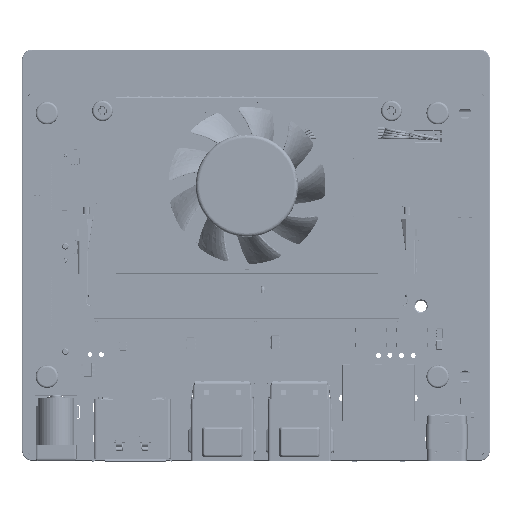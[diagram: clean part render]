
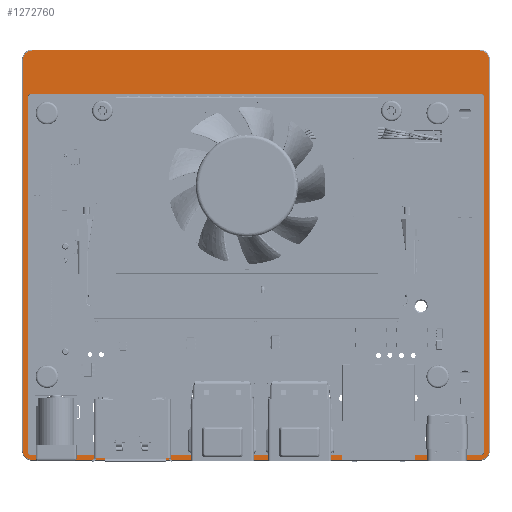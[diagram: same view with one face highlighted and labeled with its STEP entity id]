
A CAD part, top view. The second image highlights one B-rep face of the part: STEP entity #1272760.
In plain terms, the highlighted planar face has unit normal (0, 0, 1).
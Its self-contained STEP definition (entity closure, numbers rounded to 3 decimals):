
#1240463=CARTESIAN_POINT('',(84.2,39.15,-6.66));
#1240464=DIRECTION('',(0.,0.,1.));
#1240465=DIRECTION('',(1.,0.,0.));
#1240466=AXIS2_PLACEMENT_3D('',#1240463,#1240464,#1240465);
#1240471=DIRECTION('',(-1.,0.,0.));
#1240472=VECTOR('',#1240471,98.8);
#1240473=CARTESIAN_POINT('',(84.2,40.006,-6.66));
#1240474=LINE('',#1240473,#1240472);
#1240478=CARTESIAN_POINT('',(-14.6,39.15,-6.66));
#1240479=DIRECTION('',(0.,0.,1.));
#1240480=DIRECTION('',(0.,1.,0.));
#1240481=AXIS2_PLACEMENT_3D('',#1240478,#1240479,#1240480);
#1240486=DIRECTION('',(0.,-1.,0.));
#1240487=VECTOR('',#1240486,77.8);
#1240488=CARTESIAN_POINT('',(-15.456,39.15,-6.66));
#1240489=LINE('',#1240488,#1240487);
#1240493=CARTESIAN_POINT('',(-14.6,-38.65,-6.66));
#1240494=DIRECTION('',(0.,0.,1.));
#1240495=DIRECTION('',(-1.,0.,0.));
#1240496=AXIS2_PLACEMENT_3D('',#1240493,#1240494,#1240495);
#1240501=DIRECTION('',(1.,0.,0.));
#1240502=VECTOR('',#1240501,98.8);
#1240503=CARTESIAN_POINT('',(-14.6,-39.506,-6.66));
#1240504=LINE('',#1240503,#1240502);
#1240508=CARTESIAN_POINT('',(84.2,-38.65,-6.66));
#1240509=DIRECTION('',(0.,0.,1.));
#1240510=DIRECTION('',(0.,-1.,0.));
#1240511=AXIS2_PLACEMENT_3D('',#1240508,#1240509,#1240510);
#1240516=DIRECTION('',(0.,1.,0.));
#1240517=VECTOR('',#1240516,77.8);
#1240518=CARTESIAN_POINT('',(85.056,-38.65,-6.66));
#1240519=LINE('',#1240518,#1240517);
#1240523=CARTESIAN_POINT('',(-14.4,-38.45,-6.66));
#1240524=DIRECTION('',(0.,0.,1.));
#1240525=DIRECTION('',(-1.,0.,0.));
#1240526=AXIS2_PLACEMENT_3D('',#1240523,#1240524,#1240525);
#1240531=DIRECTION('',(0.,-1.,0.));
#1240532=VECTOR('',#1240531,85.9);
#1240533=CARTESIAN_POINT('',(-16.5,47.45,-6.66));
#1240534=LINE('',#1240533,#1240532);
#1240538=CARTESIAN_POINT('',(-14.4,47.45,-6.66));
#1240539=DIRECTION('',(0.,0.,1.));
#1240540=DIRECTION('',(0.,1.,0.));
#1240541=AXIS2_PLACEMENT_3D('',#1240538,#1240539,#1240540);
#1240546=DIRECTION('',(-1.,0.,0.));
#1240547=VECTOR('',#1240546,98.4);
#1240548=CARTESIAN_POINT('',(84.,49.55,-6.66));
#1240549=LINE('',#1240548,#1240547);
#1240553=CARTESIAN_POINT('',(84.,47.45,-6.66));
#1240554=DIRECTION('',(0.,0.,1.));
#1240555=DIRECTION('',(1.,0.,0.));
#1240556=AXIS2_PLACEMENT_3D('',#1240553,#1240554,#1240555);
#1240561=DIRECTION('',(0.,1.,0.));
#1240562=VECTOR('',#1240561,85.9);
#1240563=CARTESIAN_POINT('',(86.1,-38.45,-6.66));
#1240564=LINE('',#1240563,#1240562);
#1240568=CARTESIAN_POINT('',(84.,-38.45,-6.66));
#1240569=DIRECTION('',(0.,0.,1.));
#1240570=DIRECTION('',(0.,-1.,0.));
#1240571=AXIS2_PLACEMENT_3D('',#1240568,#1240569,#1240570);
#1240576=DIRECTION('',(1.,0.,0.));
#1240577=VECTOR('',#1240576,98.4);
#1240578=CARTESIAN_POINT('',(-14.4,-40.55,-6.66));
#1240579=LINE('',#1240578,#1240577);
#1268519=CARTESIAN_POINT('',(84.2,40.006,-6.66));
#1268520=CARTESIAN_POINT('',(-14.6,40.006,-6.66));
#1268521=VERTEX_POINT('',#1268519);
#1268522=VERTEX_POINT('',#1268520);
#1268523=CARTESIAN_POINT('',(-15.456,-38.65,-6.66));
#1268524=CARTESIAN_POINT('',(-14.6,-39.506,-6.66));
#1268525=VERTEX_POINT('',#1268523);
#1268526=VERTEX_POINT('',#1268524);
#1268527=CARTESIAN_POINT('',(84.2,-39.506,-6.66));
#1268528=VERTEX_POINT('',#1268527);
#1268529=CARTESIAN_POINT('',(85.056,-38.65,-6.66));
#1268530=VERTEX_POINT('',#1268529);
#1268561=CARTESIAN_POINT('',(85.056,39.15,-6.66));
#1268562=VERTEX_POINT('',#1268561);
#1268563=CARTESIAN_POINT('',(-15.456,39.15,-6.66));
#1268564=VERTEX_POINT('',#1268563);
#1269083=CARTESIAN_POINT('',(-16.5,-38.45,-6.66));
#1269084=CARTESIAN_POINT('',(-14.4,-40.55,-6.66));
#1269085=VERTEX_POINT('',#1269083);
#1269086=VERTEX_POINT('',#1269084);
#1269091=CARTESIAN_POINT('',(84.,-40.55,-6.66));
#1269092=VERTEX_POINT('',#1269091);
#1269095=CARTESIAN_POINT('',(86.1,-38.45,-6.66));
#1269096=VERTEX_POINT('',#1269095);
#1269099=CARTESIAN_POINT('',(86.1,47.45,-6.66));
#1269100=VERTEX_POINT('',#1269099);
#1269103=CARTESIAN_POINT('',(84.,49.55,-6.66));
#1269104=VERTEX_POINT('',#1269103);
#1269107=CARTESIAN_POINT('',(-14.4,49.55,-6.66));
#1269108=VERTEX_POINT('',#1269107);
#1269111=CARTESIAN_POINT('',(-16.5,47.45,-6.66));
#1269112=VERTEX_POINT('',#1269111);
#1272719=CARTESIAN_POINT('',(0.,0.,-6.66));
#1272720=DIRECTION('',(0.,0.,1.));
#1272721=DIRECTION('',(1.,0.,0.));
#1272722=AXIS2_PLACEMENT_3D('',#1272719,#1272720,#1272721);
#1272723=PLANE('',#1272722);
#1272725=ORIENTED_EDGE('',*,*,#1272724,.F.);
#1272727=ORIENTED_EDGE('',*,*,#1272726,.F.);
#1272729=ORIENTED_EDGE('',*,*,#1272728,.F.);
#1272731=ORIENTED_EDGE('',*,*,#1272730,.F.);
#1272733=ORIENTED_EDGE('',*,*,#1272732,.F.);
#1272735=ORIENTED_EDGE('',*,*,#1272734,.F.);
#1272737=ORIENTED_EDGE('',*,*,#1272736,.F.);
#1272739=ORIENTED_EDGE('',*,*,#1272738,.F.);
#1272740=EDGE_LOOP('',(#1272725,#1272727,#1272729,#1272731,#1272733,#1272735,
#1272737,#1272739));
#1272741=FACE_OUTER_BOUND('',#1272740,.F.);
#1272743=ORIENTED_EDGE('',*,*,#1272742,.T.);
#1272745=ORIENTED_EDGE('',*,*,#1272744,.T.);
#1272747=ORIENTED_EDGE('',*,*,#1272746,.T.);
#1272749=ORIENTED_EDGE('',*,*,#1272748,.T.);
#1272751=ORIENTED_EDGE('',*,*,#1272750,.T.);
#1272753=ORIENTED_EDGE('',*,*,#1272752,.T.);
#1272755=ORIENTED_EDGE('',*,*,#1272754,.T.);
#1272757=ORIENTED_EDGE('',*,*,#1272756,.T.);
#1272758=EDGE_LOOP('',(#1272743,#1272745,#1272747,#1272749,#1272751,#1272753,
#1272755,#1272757));
#1272759=FACE_BOUND('',#1272758,.F.);
#1272760=ADVANCED_FACE('',(#1272741,#1272759),#1272723,.T.);
#1240467=CIRCLE('',#1240466,0.856);
#1240482=CIRCLE('',#1240481,0.856);
#1240497=CIRCLE('',#1240496,0.856);
#1240512=CIRCLE('',#1240511,0.856);
#1240527=CIRCLE('',#1240526,2.1);
#1240542=CIRCLE('',#1240541,2.1);
#1240557=CIRCLE('',#1240556,2.1);
#1240572=CIRCLE('',#1240571,2.1);
#1272724=EDGE_CURVE('',#1269085,#1269086,#1240527,.T.);
#1272726=EDGE_CURVE('',#1269112,#1269085,#1240534,.T.);
#1272728=EDGE_CURVE('',#1269108,#1269112,#1240542,.T.);
#1272730=EDGE_CURVE('',#1269104,#1269108,#1240549,.T.);
#1272732=EDGE_CURVE('',#1269100,#1269104,#1240557,.T.);
#1272734=EDGE_CURVE('',#1269096,#1269100,#1240564,.T.);
#1272736=EDGE_CURVE('',#1269092,#1269096,#1240572,.T.);
#1272738=EDGE_CURVE('',#1269086,#1269092,#1240579,.T.);
#1272742=EDGE_CURVE('',#1268562,#1268521,#1240467,.T.);
#1272744=EDGE_CURVE('',#1268521,#1268522,#1240474,.T.);
#1272746=EDGE_CURVE('',#1268522,#1268564,#1240482,.T.);
#1272748=EDGE_CURVE('',#1268564,#1268525,#1240489,.T.);
#1272750=EDGE_CURVE('',#1268525,#1268526,#1240497,.T.);
#1272752=EDGE_CURVE('',#1268526,#1268528,#1240504,.T.);
#1272754=EDGE_CURVE('',#1268528,#1268530,#1240512,.T.);
#1272756=EDGE_CURVE('',#1268530,#1268562,#1240519,.T.);
